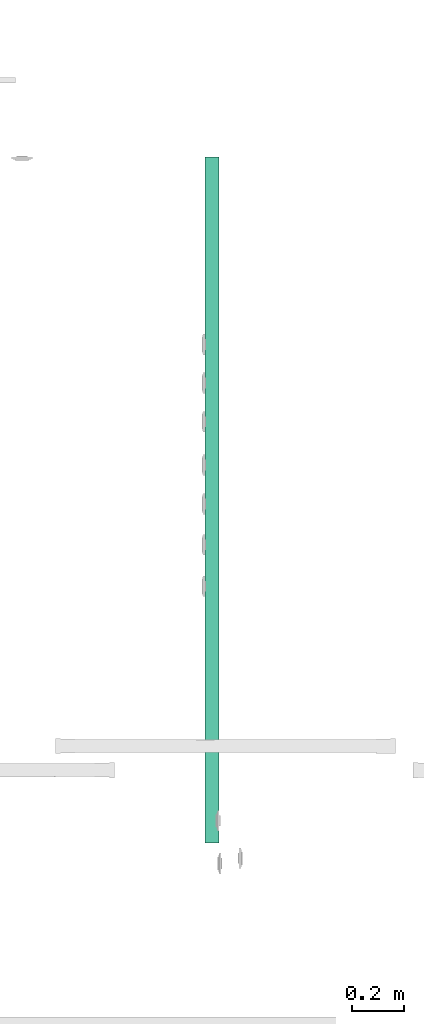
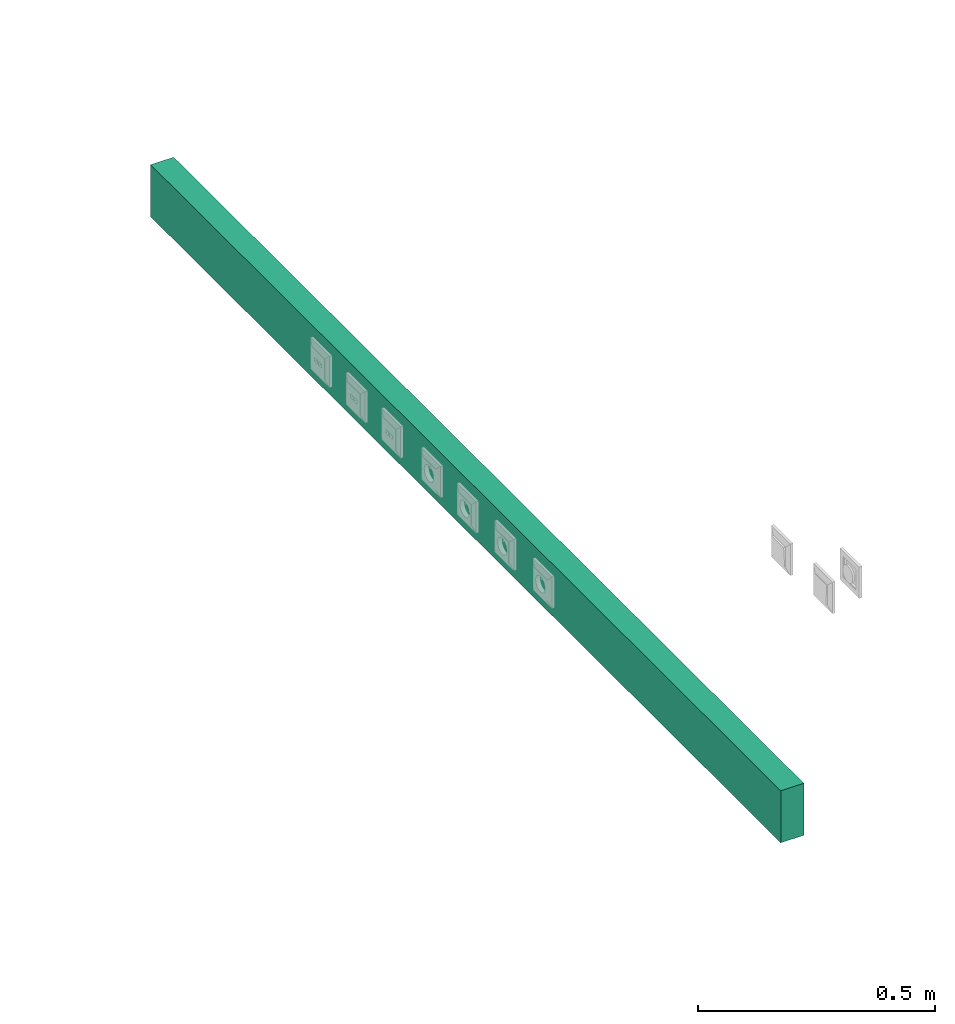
# One storey, part 19 of 153: 1 flow segment.
"""IFC2X3 building model written with IfcOpenShell, lengths in metres."""

from ifc_helpers import new_model, entity, si_unit, converted_unit, derived_unit, direction, frame, frame_2d, origin, place, context, subcontext, project, spatial, rectangle, extrude, type_object, element, save


model = new_model("IFC2X3")

# Units and contexts
model_context = context("Model", 3, precision=1e-05, world=origin(), true_north=direction((6.12303176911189e-17, 1.0)))
body_context = subcontext(model_context, "Body", "Model", "MODEL_VIEW")
ifc_project = project(units=[si_unit("LENGTHUNIT", "METRE"), si_unit("AREAUNIT", "SQUARE_METRE"), si_unit("VOLUMEUNIT", "CUBIC_METRE"), converted_unit("PLANEANGLEUNIT", "DEGREE", entity("IfcRatioMeasure", 0.0174532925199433), si_unit("PLANEANGLEUNIT", "RADIAN"), dimensions=[0, 0, 0, 0, 0, 0, 0]), si_unit("MASSUNIT", "GRAM", prefix="KILO"), derived_unit("MASSDENSITYUNIT", [(si_unit("MASSUNIT", "GRAM", prefix="KILO"), 1), (si_unit("LENGTHUNIT", "METRE"), -3)]), si_unit("TIMEUNIT", "SECOND"), si_unit("FREQUENCYUNIT", "HERTZ"), si_unit("THERMODYNAMICTEMPERATUREUNIT", "DEGREE_CELSIUS"), derived_unit("THERMALTRANSMITTANCEUNIT", [(si_unit("MASSUNIT", "GRAM", prefix="KILO"), 1), (si_unit("THERMODYNAMICTEMPERATUREUNIT", "KELVIN"), -1), (si_unit("TIMEUNIT", "SECOND"), -3)]), derived_unit("VOLUMETRICFLOWRATEUNIT", [(si_unit("LENGTHUNIT", "METRE"), 3), (si_unit("TIMEUNIT", "SECOND"), -1)]), si_unit("ELECTRICCURRENTUNIT", "AMPERE"), si_unit("ELECTRICVOLTAGEUNIT", "VOLT"), si_unit("POWERUNIT", "WATT"), si_unit("FORCEUNIT", "NEWTON"), si_unit("ILLUMINANCEUNIT", "LUX"), si_unit("LUMINOUSFLUXUNIT", "LUMEN"), si_unit("LUMINOUSINTENSITYUNIT", "CANDELA"), derived_unit("USERDEFINED", [(si_unit("MASSUNIT", "GRAM", prefix="KILO"), -1), (si_unit("LENGTHUNIT", "METRE"), -2), (si_unit("TIMEUNIT", "SECOND"), 3), (si_unit("LUMINOUSFLUXUNIT", "LUMEN"), 1)]), derived_unit("LINEARVELOCITYUNIT", [(si_unit("LENGTHUNIT", "METRE"), 1), (si_unit("TIMEUNIT", "SECOND"), -1)]), si_unit("PRESSUREUNIT", "PASCAL"), derived_unit("USERDEFINED", [(si_unit("LENGTHUNIT", "METRE"), -2), (si_unit("MASSUNIT", "GRAM", prefix="KILO"), 1), (si_unit("TIMEUNIT", "SECOND"), -2)])], contexts=[model_context])

# Site, building, storey
site_placement = place(None, origin())
site = spatial("IfcSite", under=ifc_project, at=site_placement, Name="Default", CompositionType="ELEMENT")
building_placement = place(site_placement, origin())
building = spatial("IfcBuilding", under=site, at=building_placement, CompositionType="ELEMENT")
storey_placement = place(building_placement, frame((0.0, 0.0, -4.62)))
storey = spatial("IfcBuildingStorey", under=building, at=storey_placement, Name="S02", CompositionType="ELEMENT", Elevation=-4.62)

# Flow segment
cable_carrier_segment_type = type_object("IfcCableCarrierSegmentType", Name="Cable Tray with Fittings:Goulottes de câbles indéfini_Goulottes de câbles", PredefinedType="NOTDEFINED")
flow_segment_placement = place(storey_placement, origin())
element("IfcFlowSegment", 1, at=flow_segment_placement, inside=storey, type_object=cable_carrier_segment_type, Name="Cable Tray with Fittings:Goulottes de câbles indéfini_Goulottes de câbles", ObjectType="Cable Tray with Fittings:Goulottes de câbles indéfini_Goulottes de câbles", context=body_context, shape_type="SweptSolid", body=[
    extrude(rectangle(XDim=2.65999999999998, YDim=0.0560000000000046, at=frame_2d((-1.73194791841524e-14, 0.0), x_axis=(1.0, 0.0))), frame((57.4197436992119, -186.544488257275, 0.365999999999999), z_axis=(0.0, 0.0, 1.0), x_axis=(0.0, -1.0, 0.0)), (0.0, 0.0, 1.0), 0.134),
])

save(model, "model.ifc")
